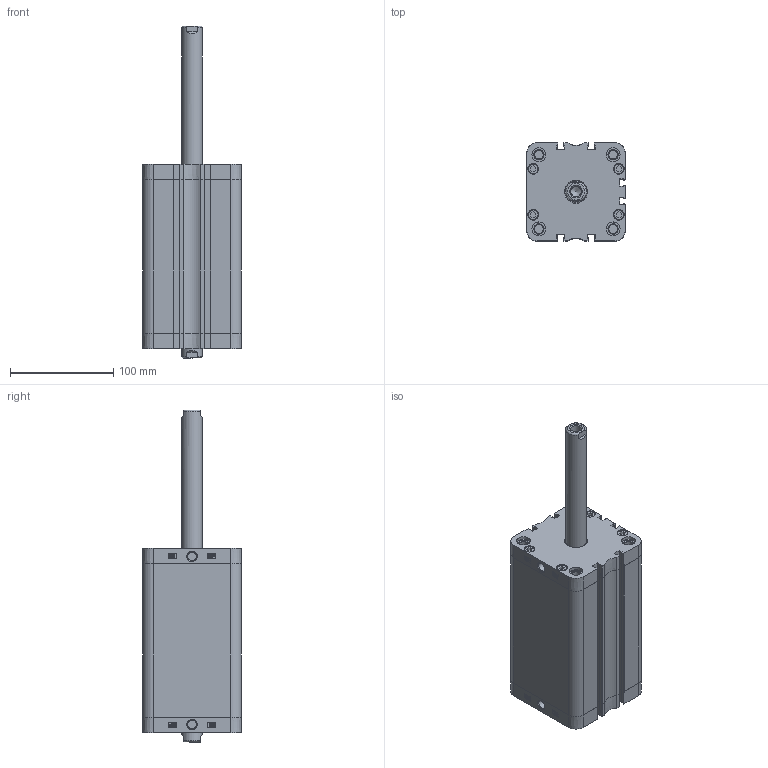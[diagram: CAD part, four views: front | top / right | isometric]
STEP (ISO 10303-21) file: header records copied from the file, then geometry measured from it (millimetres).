
FILE_DESCRIPTION(/* description */ ('Unknown'),/* implementation_level */ '2;1');
FILE_NAME(/* name */ 'ZBN 80_125',/* time_stamp */ '2024-11-18T07:30:15+01:00',/* author */ ('Unknown'),/* organization */ ('Unknown'),/* preprocessor_version */ 'ST-DEVELOPER v16.7',/* originating_system */ 'Solid Edge',/* authorisation */ 'Unknown');
FILE_SCHEMA (('AUTOMOTIVE_DESIGN {1 0 10303 214 3 1 1}'));
Length unit declared in the file: millimetre
Products named in the file (4): ZBN 80_125; Profilrohr; Kolbenstange; Kit
Assembly tree (5 placements, depth 2):
  ZBN 80_125
    Profilrohr
    Kolbenstange  x2
    Kit  x2
Bounding box: 95.5 x 95.5 x 322 mm (x, y, z)
Volume: 1001894.4 mm3; surface area: 214669.9 mm2
Topology: 5 solids, 5 shells, 755 faces, 1999 edges, 1324 vertices
Faces by surface type: plane 348, cylinder 211, bspline 122, cone 52, torus 22
Full cylindrical faces by diameter (mm): 8.376 x8, 8.566 x2, 9.8 x8, 10.106 x2, 10.3 x8, 13.5 x8, 20 x2, 20.6 x2, 21.9 x2, 23 x2, 25 x2, 80 x3
Entity records: 16053 total; most frequent: CARTESIAN_POINT 3249, ORIENTED_EDGE 2192, DIRECTION 2033, EDGE_CURVE 1096, VERTEX_POINT 760, AXIS2_PLACEMENT_3D 693, LINE 647, VECTOR 647
